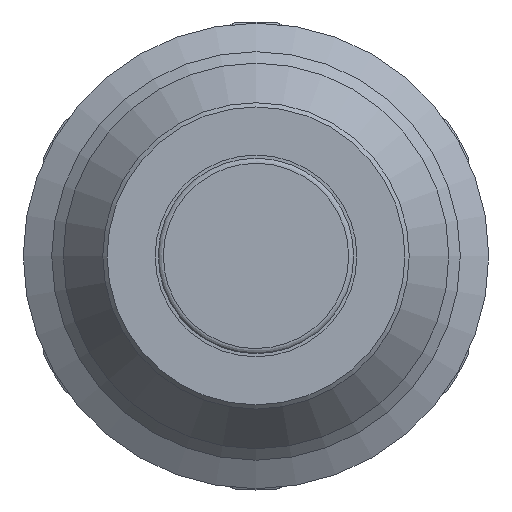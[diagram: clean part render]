
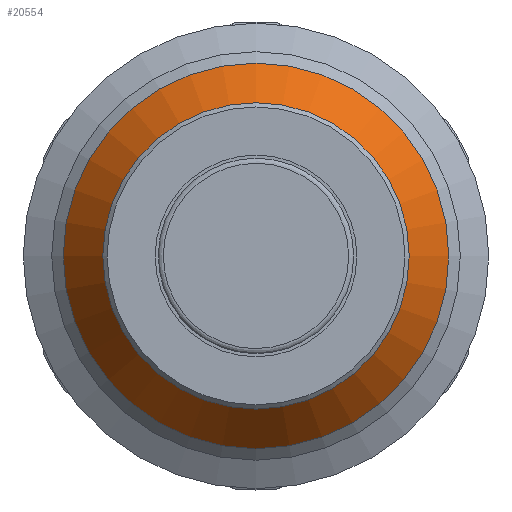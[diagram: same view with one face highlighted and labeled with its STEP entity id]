
A CAD part, front view. The second image highlights one B-rep face of the part: STEP entity #20554.
In plain terms, the highlighted conical face has half-angle 36.001 degrees and reference radius 20.325 mm.
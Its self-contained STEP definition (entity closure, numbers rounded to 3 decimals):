
#732=CONICAL_SURFACE('',#21572,20.325,0.628);
#1551=FACE_OUTER_BOUND('',#2673,.T.);
#2673=EDGE_LOOP('',(#15885,#15886,#15887,#15888));
#5341=LINE('',#36949,#6564);
#6564=VECTOR('',#23322,20.325);
#7322=CIRCLE('',#21329,18.);
#7436=CIRCLE('',#21573,22.65);
#8113=VERTEX_POINT('',#26874);
#8986=VERTEX_POINT('',#36947);
#10173=EDGE_CURVE('',#8113,#8113,#7322,.T.);
#11483=EDGE_CURVE('',#8986,#8986,#7436,.T.);
#11484=EDGE_CURVE('',#8986,#8113,#5341,.T.);
#15885=ORIENTED_EDGE('',*,*,#11483,.F.);
#15886=ORIENTED_EDGE('',*,*,#11484,.T.);
#15887=ORIENTED_EDGE('',*,*,#10173,.T.);
#15888=ORIENTED_EDGE('',*,*,#11484,.F.);
#20554=ADVANCED_FACE('',(#1551),#732,.T.);
#21329=AXIS2_PLACEMENT_3D('',#26875,#22337,#22338);
#21572=AXIS2_PLACEMENT_3D('',#36946,#23318,#23319);
#21573=AXIS2_PLACEMENT_3D('',#36948,#23320,#23321);
#22337=DIRECTION('center_axis',(0.,1.,0.));
#22338=DIRECTION('ref_axis',(1.,0.,0.));
#23318=DIRECTION('center_axis',(0.,1.,0.));
#23319=DIRECTION('ref_axis',(-1.,0.,0.));
#23320=DIRECTION('center_axis',(0.,1.,0.));
#23321=DIRECTION('ref_axis',(1.,0.,0.));
#23322=DIRECTION('',(-0.588,-0.809,0.));
#26874=CARTESIAN_POINT('',(18.,-11.25,0.));
#26875=CARTESIAN_POINT('Origin',(0.,-11.25,0.));
#36946=CARTESIAN_POINT('Origin',(0.,-8.05,0.));
#36947=CARTESIAN_POINT('',(22.65,-4.85,0.));
#36948=CARTESIAN_POINT('Origin',(0.,-4.85,0.));
#36949=CARTESIAN_POINT('',(20.325,-8.05,0.));
